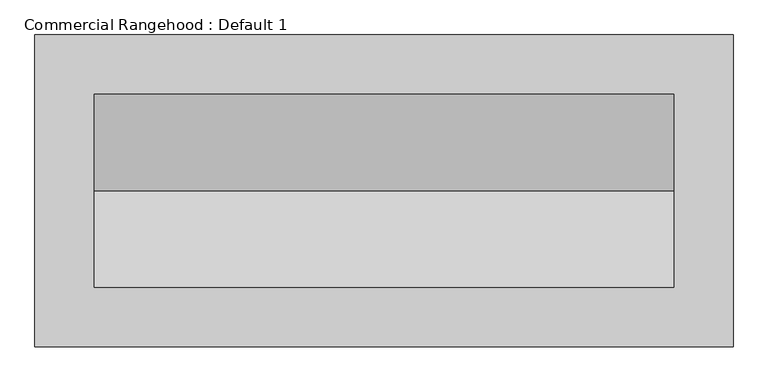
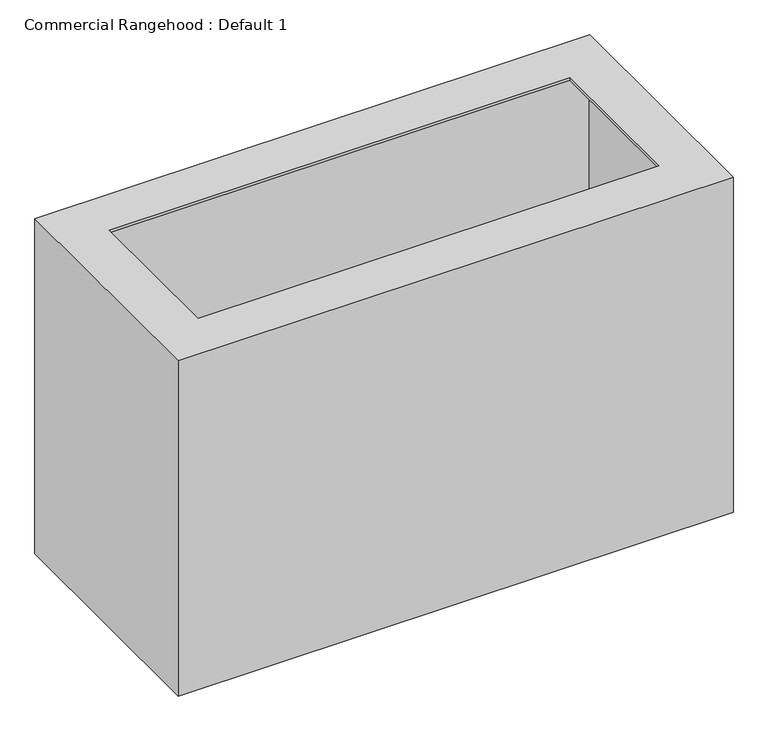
"""IFC4 building model written with IfcOpenShell, lengths in millimetres: proxy geometry, Commercial Rangehood : Default 1."""

from ifc_helpers import new_model, si_unit, frame, origin, place, context, project, spatial, polyline, outline, extrude, faceted_brep, source, transform, mapped, element, save


def commercial_rangehood_default_1_3e8b6b1f(model_context):
    return source(origin(), model_context, "Body", "SolidModel", [
        extrude(outline(polyline([(266.7, 2438.4), (6.35, 2731.10866), (6.35, 2739.1669256), (266.7, 2446.4582657), (527.05, 2776.6880069), (527.05, 2768.6297412), (266.7, 2438.4)])), frame((-679.45, 0.0, 0.0), z_axis=(1.0, 0.0, 0.0), x_axis=(0.0, 1.0, 0.0)), (0.0, 0.0, 1.0), 1181.1),
        faceted_brep([(-685.8, 533.4, 2438.4), (-685.8, 533.4, 3200.4), (508.0, 533.4, 3200.4), (508.0, 533.4, 2438.4), (-660.4, 508.0, 2451.1), (-660.4, 508.0, 2438.4), (482.6, 508.0, 2438.4), (482.6, 508.0, 2451.1), (-666.75, 514.35, 2444.75), (-666.75, 514.35, 2451.1), (488.95, 514.35, 2451.1), (488.95, 514.35, 2444.75), (-679.45, 527.05, 3194.05), (-679.45, 527.05, 2444.75), (501.65, 527.05, 2444.75), (501.65, 527.05, 3194.05), (-584.2, 431.8, 3200.4), (-584.2, 431.8, 3194.05), (406.4, 431.8, 3194.05), (406.4, 431.8, 3200.4), (508.0, 0.0, 3200.4), (508.0, 0.0, 2438.4), (482.6, 25.4, 2438.4), (482.6, 25.4, 2451.1), (488.95, 19.05, 2451.1), (488.95, 19.05, 2444.75), (501.65, 6.35, 2444.75), (501.65, 6.35, 3194.05), (406.4, 101.6, 3194.05), (406.4, 101.6, 3200.4), (-685.8, 0.0, 3200.4), (-685.8, 0.0, 2438.4), (-660.4, 25.4, 2438.4), (-660.4, 25.4, 2451.1), (-666.75, 19.05, 2451.1), (-666.75, 19.05, 2444.75), (-679.45, 6.35, 2444.75), (-679.45, 6.35, 3194.05), (-584.2, 101.6, 3194.05), (-584.2, 101.6, 3200.4)], [[[0, 1, 2, 3]], [[4, 5, 6, 7]], [[8, 9, 10, 11]], [[12, 13, 14, 15]], [[16, 17, 18, 19]], [[3, 2, 20, 21]], [[7, 6, 22, 23]], [[11, 10, 24, 25]], [[15, 14, 26, 27]], [[19, 18, 28, 29]], [[21, 20, 30, 31]], [[23, 22, 32, 33]], [[25, 24, 34, 35]], [[27, 26, 36, 37]], [[29, 28, 38, 39]], [[31, 30, 1, 0]], [[3, 21, 31, 0], [5, 32, 22, 6]], [[33, 32, 5, 4]], [[9, 34, 24, 10], [7, 23, 33, 4]], [[35, 34, 9, 8]], [[13, 36, 26, 14], [11, 25, 35, 8]], [[37, 36, 13, 12]], [[15, 27, 37, 12], [17, 38, 28, 18]], [[39, 38, 17, 16]], [[1, 30, 20, 2], [19, 29, 39, 16]]]),
    ])


if __name__ == "__main__":
    model = new_model("IFC4")
    model_context = context("Model", 3, world=origin())
    ifc_project = project(units=[si_unit("LENGTHUNIT", "METRE", prefix="MILLI")], contexts=[model_context])
    site = spatial("IfcSite", under=ifc_project)
    building = spatial("IfcBuilding", under=site)
    placement = place(None, origin())
    commercial_rangehood_default_1_shape = commercial_rangehood_default_1_3e8b6b1f(model_context)
    element("IfcBuildingElementProxy", 1, Name="Commercial Rangehood : Default 1", ObjectType="Commercial Rangehood : Default 1", at=placement, inside=building, context=model_context, shape_type="MappedRepresentation", body=[
        mapped(commercial_rangehood_default_1_shape, transform((0.0, 0.0, 0.0), x_axis=(1.0, 0.0, 0.0), y_axis=(0.0, 1.0, 0.0), z_axis=(0.0, 0.0, 1.0))),
    ])
    save(model, "model.ifc")
